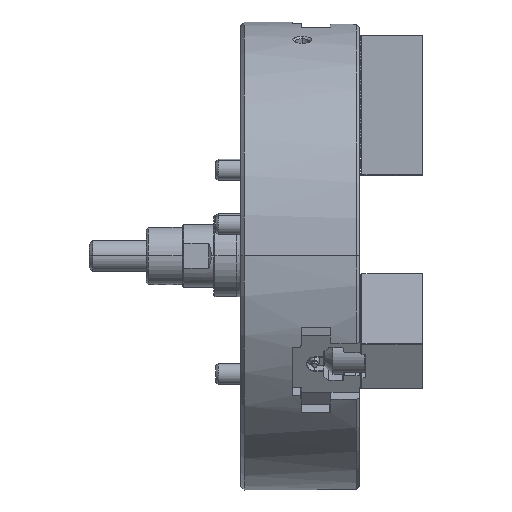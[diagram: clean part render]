
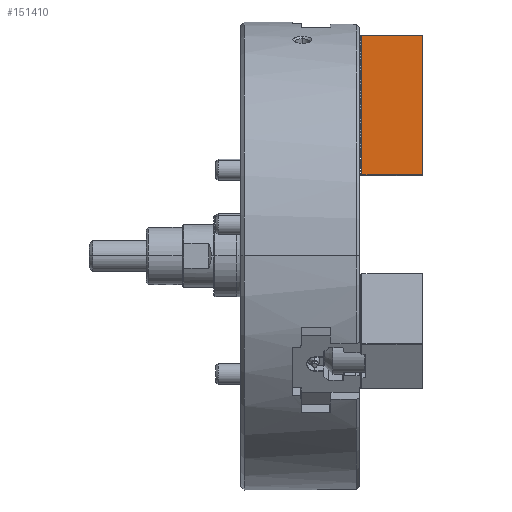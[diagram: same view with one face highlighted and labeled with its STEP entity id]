
A CAD part, top view. The second image highlights one B-rep face of the part: STEP entity #151410.
In plain terms, the highlighted planar face has unit normal (0, 0, 1).
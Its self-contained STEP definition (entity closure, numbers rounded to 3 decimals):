
#16298 = EDGE_CURVE ( 'NONE', #184992, #204221, #49553, .T. ) ;
#26282 = LINE ( 'NONE', #59111, #96327 ) ;
#26375 = VERTEX_POINT ( 'NONE', #115009 ) ;
#26680 = DIRECTION ( 'NONE',  ( 0., 1., 0. ) ) ;
#27203 = EDGE_CURVE ( 'NONE', #204221, #174180, #26282, .T. ) ;
#27282 = CARTESIAN_POINT ( 'NONE',  ( 59.4, 0.6, 25. ) ) ;
#29589 = CARTESIAN_POINT ( 'NONE',  ( 60., 0.6, 25. ) ) ;
#30887 = DIRECTION ( 'NONE',  ( -1., 0., 0. ) ) ;
#41677 = VECTOR ( 'NONE', #30887, 1000. ) ;
#45768 = LINE ( 'NONE', #93386, #41677 ) ;
#46529 = PLANE ( 'NONE',  #125939 ) ;
#49553 = LINE ( 'NONE', #50579, #137089 ) ;
#50579 = CARTESIAN_POINT ( 'NONE',  ( 60., 0.6, 25. ) ) ;
#59111 = CARTESIAN_POINT ( 'NONE',  ( 1.4, 0., 25. ) ) ;
#67844 = EDGE_CURVE ( 'NONE', #184992, #26375, #170566, .T. ) ;
#74524 = ORIENTED_EDGE ( 'NONE', *, *, #67844, .T. ) ;
#90839 = DIRECTION ( 'NONE',  ( 0., 1., 0. ) ) ;
#93386 = CARTESIAN_POINT ( 'NONE',  ( 60., 134.4, 25. ) ) ;
#96327 = VECTOR ( 'NONE', #90839, 1000. ) ;
#102690 = ORIENTED_EDGE ( 'NONE', *, *, #16298, .F. ) ;
#104304 = CARTESIAN_POINT ( 'NONE',  ( 1.4, 134.4, 25. ) ) ;
#106058 = CARTESIAN_POINT ( 'NONE',  ( 59.4, 134.4, 25. ) ) ;
#108957 = DIRECTION ( 'NONE',  ( 0., 0., -1. ) ) ;
#115009 = CARTESIAN_POINT ( 'NONE',  ( 59.4, 134.4, 25. ) ) ;
#117932 = ORIENTED_EDGE ( 'NONE', *, *, #152210, .T. ) ;
#123805 = DIRECTION ( 'NONE',  ( 0., 1., 0. ) ) ;
#125939 = AXIS2_PLACEMENT_3D ( 'NONE', #29589, #108957, #123805 ) ;
#128544 = EDGE_LOOP ( 'NONE', ( #102690, #74524, #117932, #193620 ) ) ;
#137089 = VECTOR ( 'NONE', #145735, 1000. ) ;
#143272 = VECTOR ( 'NONE', #26680, 1000. ) ;
#143461 = CARTESIAN_POINT ( 'NONE',  ( 1.4, 0.6, 25. ) ) ;
#143782 = FACE_OUTER_BOUND ( 'NONE', #128544, .T. ) ;
#145735 = DIRECTION ( 'NONE',  ( -1., 0., 0. ) ) ;
#151410 = ADVANCED_FACE ( 'NONE', ( #143782 ), #46529, .F. ) ;
#152210 = EDGE_CURVE ( 'NONE', #26375, #174180, #45768, .T. ) ;
#170566 = LINE ( 'NONE', #106058, #143272 ) ;
#174180 = VERTEX_POINT ( 'NONE', #104304 ) ;
#184992 = VERTEX_POINT ( 'NONE', #27282 ) ;
#193620 = ORIENTED_EDGE ( 'NONE', *, *, #27203, .F. ) ;
#204221 = VERTEX_POINT ( 'NONE', #143461 ) ;
